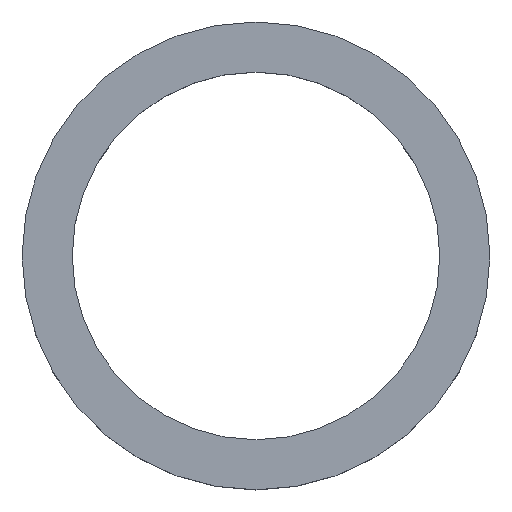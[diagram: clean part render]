
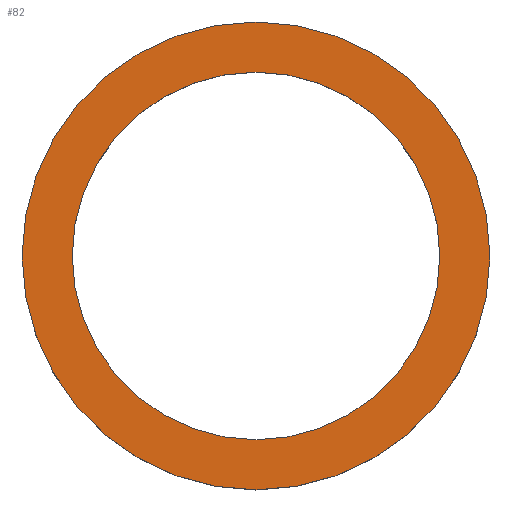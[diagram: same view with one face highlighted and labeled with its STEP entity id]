
A CAD part, top view. The second image highlights one B-rep face of the part: STEP entity #82.
In plain terms, the highlighted planar face has unit normal (0, 0, 1).
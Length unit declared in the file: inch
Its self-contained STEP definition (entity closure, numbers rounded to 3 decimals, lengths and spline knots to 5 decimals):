
#4 = DIRECTION ( 'NONE',  ( 0., 0., 1. ) ) ;
#6 = DIRECTION ( 'NONE',  ( 0., 0., 1. ) ) ;
#8 = ORIENTED_EDGE ( 'NONE', *, *, #167, .T. ) ;
#19 = CIRCLE ( 'NONE', #42, 0.20669 ) ;
#22 = DIRECTION ( 'NONE',  ( 1., 0., 0. ) ) ;
#23 = CARTESIAN_POINT ( 'NONE',  ( 0., 0., 0.07087 ) ) ;
#31 = AXIS2_PLACEMENT_3D ( 'NONE', #156, #157, #79 ) ;
#38 = AXIS2_PLACEMENT_3D ( 'NONE', #223, #4, #22 ) ;
#42 = AXIS2_PLACEMENT_3D ( 'NONE', #76, #72, #97 ) ;
#44 = CIRCLE ( 'NONE', #31, 0.20669 ) ;
#53 = CARTESIAN_POINT ( 'NONE',  ( -0.1624, 0., 0.07087 ) ) ;
#72 = DIRECTION ( 'NONE',  ( 0., 0., 1. ) ) ;
#75 = PLANE ( 'NONE',  #225 ) ;
#76 = CARTESIAN_POINT ( 'NONE',  ( 0., 0., 0.07087 ) ) ;
#79 = DIRECTION ( 'NONE',  ( 1., 0., 0. ) ) ;
#81 = VERTEX_POINT ( 'NONE', #178 ) ;
#82 = ADVANCED_FACE ( 'NONE', ( #115, #173 ), #75, .T. ) ;
#97 = DIRECTION ( 'NONE',  ( 1., 0., 0. ) ) ;
#98 = VERTEX_POINT ( 'NONE', #53 ) ;
#111 = DIRECTION ( 'NONE',  ( 1., 0., 0. ) ) ;
#112 = CARTESIAN_POINT ( 'NONE',  ( -0.20669, 0., 0.07087 ) ) ;
#115 = FACE_OUTER_BOUND ( 'NONE', #199, .T. ) ;
#116 = DIRECTION ( 'NONE',  ( 1., 0., 0. ) ) ;
#119 = VERTEX_POINT ( 'NONE', #112 ) ;
#123 = EDGE_CURVE ( 'NONE', #119, #206, #44, .T. ) ;
#127 = EDGE_CURVE ( 'NONE', #81, #98, #166, .T. ) ;
#137 = ORIENTED_EDGE ( 'NONE', *, *, #127, .F. ) ;
#146 = ORIENTED_EDGE ( 'NONE', *, *, #123, .T. ) ;
#153 = EDGE_LOOP ( 'NONE', ( #208, #137 ) ) ;
#154 = DIRECTION ( 'NONE',  ( 0., 0., 1. ) ) ;
#155 = AXIS2_PLACEMENT_3D ( 'NONE', #23, #154, #116 ) ;
#156 = CARTESIAN_POINT ( 'NONE',  ( 0., 0., 0.07087 ) ) ;
#157 = DIRECTION ( 'NONE',  ( 0., 0., 1. ) ) ;
#166 = CIRCLE ( 'NONE', #38, 0.1624 ) ;
#167 = EDGE_CURVE ( 'NONE', #206, #119, #19, .T. ) ;
#173 = FACE_BOUND ( 'NONE', #153, .T. ) ;
#178 = CARTESIAN_POINT ( 'NONE',  ( 0.1624, 0., 0.07087 ) ) ;
#180 = EDGE_CURVE ( 'NONE', #98, #81, #222, .T. ) ;
#198 = CARTESIAN_POINT ( 'NONE',  ( 0., 0., 0.07087 ) ) ;
#199 = EDGE_LOOP ( 'NONE', ( #146, #8 ) ) ;
#206 = VERTEX_POINT ( 'NONE', #207 ) ;
#207 = CARTESIAN_POINT ( 'NONE',  ( 0.20669, 0., 0.07087 ) ) ;
#208 = ORIENTED_EDGE ( 'NONE', *, *, #180, .F. ) ;
#222 = CIRCLE ( 'NONE', #155, 0.1624 ) ;
#223 = CARTESIAN_POINT ( 'NONE',  ( 0., 0., 0.07087 ) ) ;
#225 = AXIS2_PLACEMENT_3D ( 'NONE', #198, #6, #111 ) ;
